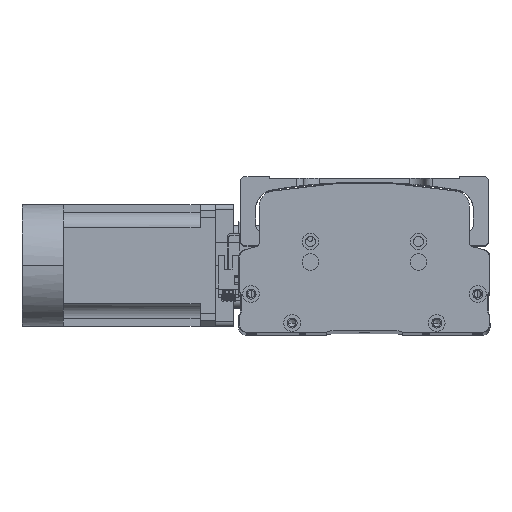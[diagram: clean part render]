
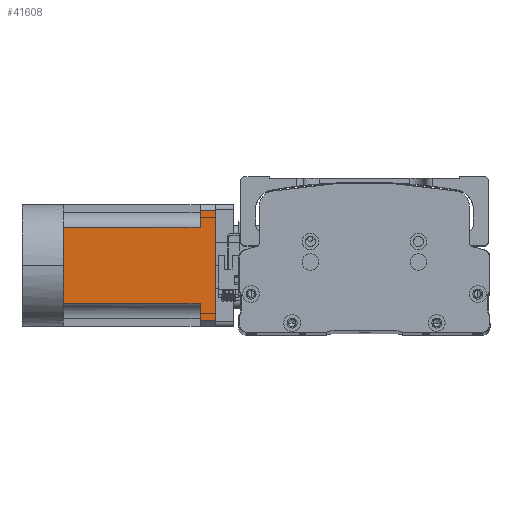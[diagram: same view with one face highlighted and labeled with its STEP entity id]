
A CAD part, top view. The second image highlights one B-rep face of the part: STEP entity #41608.
In plain terms, the highlighted planar face has unit normal (0, -0.003, 1) as drawn and (0, 0, -1) by its records, which use the part's own axes.
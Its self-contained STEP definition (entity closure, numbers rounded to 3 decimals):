
#344 = EDGE_CURVE ( 'NONE', #4906, #36891, #45228, .T. ) ;
#482 = LINE ( 'NONE', #37358, #7005 ) ;
#688 = EDGE_CURVE ( 'NONE', #40451, #48568, #9013, .T. ) ;
#1331 = CARTESIAN_POINT ( 'NONE',  ( -36., -27., -40. ) ) ;
#2705 = DIRECTION ( 'NONE',  ( -1., 0., 0. ) ) ;
#2846 = CARTESIAN_POINT ( 'NONE',  ( 25., 90., -40. ) ) ;
#3013 = CARTESIAN_POINT ( 'NONE',  ( -25., 0., -40. ) ) ;
#3092 = LINE ( 'NONE', #47537, #32144 ) ;
#3167 = DIRECTION ( 'NONE',  ( 0., -1., 0. ) ) ;
#4906 = VERTEX_POINT ( 'NONE', #2846 ) ;
#5513 = CARTESIAN_POINT ( 'NONE',  ( -36., 100., -40. ) ) ;
#5917 = CARTESIAN_POINT ( 'NONE',  ( -25., 90., -40. ) ) ;
#6974 = CARTESIAN_POINT ( 'NONE',  ( 25., -27., -40. ) ) ;
#7005 = VECTOR ( 'NONE', #45173, 1000. ) ;
#8152 = VECTOR ( 'NONE', #35463, 1000. ) ;
#8849 = VECTOR ( 'NONE', #19336, 1000. ) ;
#9013 = LINE ( 'NONE', #43288, #29207 ) ;
#9074 = AXIS2_PLACEMENT_3D ( 'NONE', #32545, #25432, #2705 ) ;
#9242 = CARTESIAN_POINT ( 'NONE',  ( -40., 90., -40. ) ) ;
#9691 = DIRECTION ( 'NONE',  ( -1., 0., 0. ) ) ;
#10337 = ORIENTED_EDGE ( 'NONE', *, *, #15759, .T. ) ;
#10552 = ORIENTED_EDGE ( 'NONE', *, *, #46703, .T. ) ;
#11006 = ORIENTED_EDGE ( 'NONE', *, *, #48824, .T. ) ;
#11648 = LINE ( 'NONE', #24736, #31819 ) ;
#11824 = CARTESIAN_POINT ( 'NONE',  ( 25., 0., -40. ) ) ;
#13686 = EDGE_LOOP ( 'NONE', ( #41271, #10337, #46699, #39593, #39809, #16676, #10552, #11006, #24425 ) ) ;
#14383 = EDGE_CURVE ( 'NONE', #33490, #48568, #18278, .T. ) ;
#14542 = LINE ( 'NONE', #45702, #44815 ) ;
#15334 = VERTEX_POINT ( 'NONE', #45059 ) ;
#15759 = EDGE_CURVE ( 'NONE', #40451, #15334, #11648, .T. ) ;
#16676 = ORIENTED_EDGE ( 'NONE', *, *, #42515, .T. ) ;
#18278 = LINE ( 'NONE', #1331, #8152 ) ;
#18980 = LINE ( 'NONE', #26822, #8849 ) ;
#19336 = DIRECTION ( 'NONE',  ( -1., 0., 0. ) ) ;
#20501 = EDGE_CURVE ( 'NONE', #36891, #37660, #18980, .T. ) ;
#20562 = DIRECTION ( 'NONE',  ( -1., 0., 0. ) ) ;
#21217 = CARTESIAN_POINT ( 'NONE',  ( 36., 100., -40. ) ) ;
#22079 = VERTEX_POINT ( 'NONE', #5917 ) ;
#22971 = DIRECTION ( 'NONE',  ( 0., 1., 0. ) ) ;
#24425 = ORIENTED_EDGE ( 'NONE', *, *, #14383, .T. ) ;
#24736 = CARTESIAN_POINT ( 'NONE',  ( 36., -27., -40. ) ) ;
#25006 = VECTOR ( 'NONE', #3167, 1000. ) ;
#25432 = DIRECTION ( 'NONE',  ( 0., 0., -1. ) ) ;
#26822 = CARTESIAN_POINT ( 'NONE',  ( -40., 0., -40. ) ) ;
#27059 = CARTESIAN_POINT ( 'NONE',  ( -36., 90., -40. ) ) ;
#29207 = VECTOR ( 'NONE', #20562, 1000. ) ;
#31819 = VECTOR ( 'NONE', #40520, 1000. ) ;
#32144 = VECTOR ( 'NONE', #9691, 1000. ) ;
#32545 = CARTESIAN_POINT ( 'NONE',  ( -40., -27., -40. ) ) ;
#33490 = VERTEX_POINT ( 'NONE', #27059 ) ;
#33664 = VECTOR ( 'NONE', #39623, 1000. ) ;
#34832 = LINE ( 'NONE', #9242, #33664 ) ;
#35463 = DIRECTION ( 'NONE',  ( 0., 1., 0. ) ) ;
#36891 = VERTEX_POINT ( 'NONE', #11824 ) ;
#37358 = CARTESIAN_POINT ( 'NONE',  ( -40., 90., -40. ) ) ;
#37660 = VERTEX_POINT ( 'NONE', #43937 ) ;
#39593 = ORIENTED_EDGE ( 'NONE', *, *, #344, .T. ) ;
#39623 = DIRECTION ( 'NONE',  ( -1., 0., 0. ) ) ;
#39809 = ORIENTED_EDGE ( 'NONE', *, *, #20501, .T. ) ;
#40330 = EDGE_CURVE ( 'NONE', #15334, #4906, #34832, .T. ) ;
#40451 = VERTEX_POINT ( 'NONE', #21217 ) ;
#40520 = DIRECTION ( 'NONE',  ( 0., -1., 0. ) ) ;
#41271 = ORIENTED_EDGE ( 'NONE', *, *, #688, .F. ) ;
#41608 = ADVANCED_FACE ( 'NONE', ( #42404 ), #48149, .T. ) ;
#42404 = FACE_OUTER_BOUND ( 'NONE', #13686, .T. ) ;
#42515 = EDGE_CURVE ( 'NONE', #37660, #44264, #3092, .T. ) ;
#43288 = CARTESIAN_POINT ( 'NONE',  ( -40., 100., -40. ) ) ;
#43937 = CARTESIAN_POINT ( 'NONE',  ( 0., 0., -40. ) ) ;
#44264 = VERTEX_POINT ( 'NONE', #3013 ) ;
#44815 = VECTOR ( 'NONE', #22971, 1000. ) ;
#45059 = CARTESIAN_POINT ( 'NONE',  ( 36., 90., -40. ) ) ;
#45173 = DIRECTION ( 'NONE',  ( -1., 0., 0. ) ) ;
#45228 = LINE ( 'NONE', #6974, #25006 ) ;
#45702 = CARTESIAN_POINT ( 'NONE',  ( -25., -27., -40. ) ) ;
#46699 = ORIENTED_EDGE ( 'NONE', *, *, #40330, .T. ) ;
#46703 = EDGE_CURVE ( 'NONE', #44264, #22079, #14542, .T. ) ;
#47537 = CARTESIAN_POINT ( 'NONE',  ( -40., 0., -40. ) ) ;
#48149 = PLANE ( 'NONE',  #9074 ) ;
#48568 = VERTEX_POINT ( 'NONE', #5513 ) ;
#48824 = EDGE_CURVE ( 'NONE', #22079, #33490, #482, .T. ) ;
